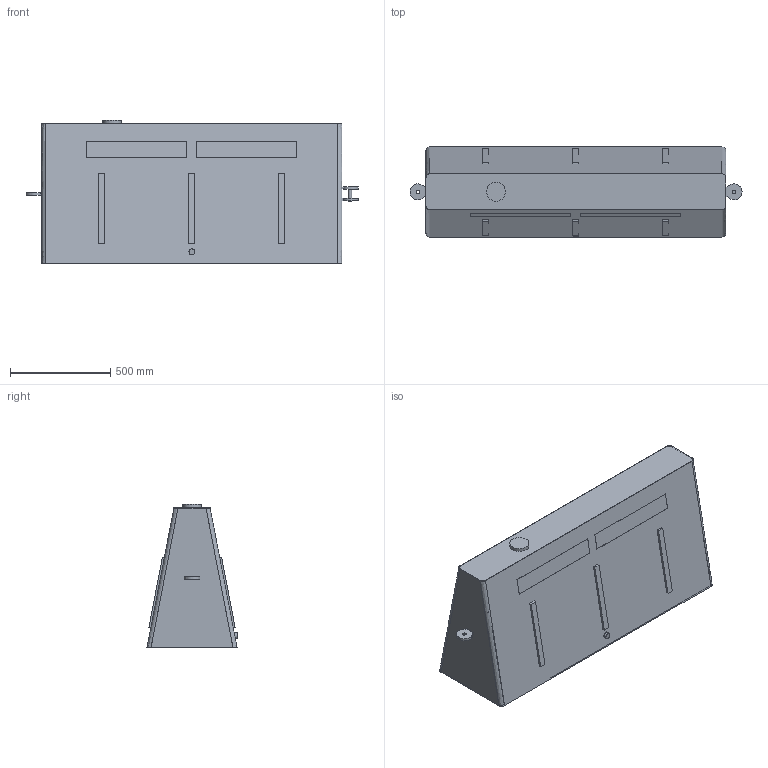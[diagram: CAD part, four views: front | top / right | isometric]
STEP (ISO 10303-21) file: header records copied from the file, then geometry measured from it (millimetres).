
FILE_DESCRIPTION(('FreeCAD Model'),'2;1');
FILE_NAME('Open CASCADE Shape Model','2026-10-04T03:18:30',('FreeCAD'),( 'FreeCAD'),'Open CASCADE STEP processor 7.8','FreeCAD','Unknown');
FILE_SCHEMA(('AUTOMOTIVE_DESIGN { 1 0 10303 214 1 1 1 1 }'));
Length unit declared in the file: millimetre
Products named in the file (1): Open CASCADE STEP translator 7.8 1
Bounding box: 1659.86 x 450 x 718 mm (x, y, z)
Volume: 14860811.2 mm3; surface area: 7351939.9 mm2
Topology: 8 solids, 8 shells, 118 faces, 268 edges, 180 vertices
Faces by surface type: plane 83, bspline 24, cylinder 11
Full cylindrical faces by diameter (mm): 16 x1, 18 x3, 29.5 x1, 30 x1, 80 x1, 95 x1
Entity records: 4774 total; most frequent: CARTESIAN_POINT 2299, ORIENTED_EDGE 536, DIRECTION 404, EDGE_CURVE 268, VERTEX_POINT 180, LINE 162, VECTOR 162, FACE_BOUND 140
